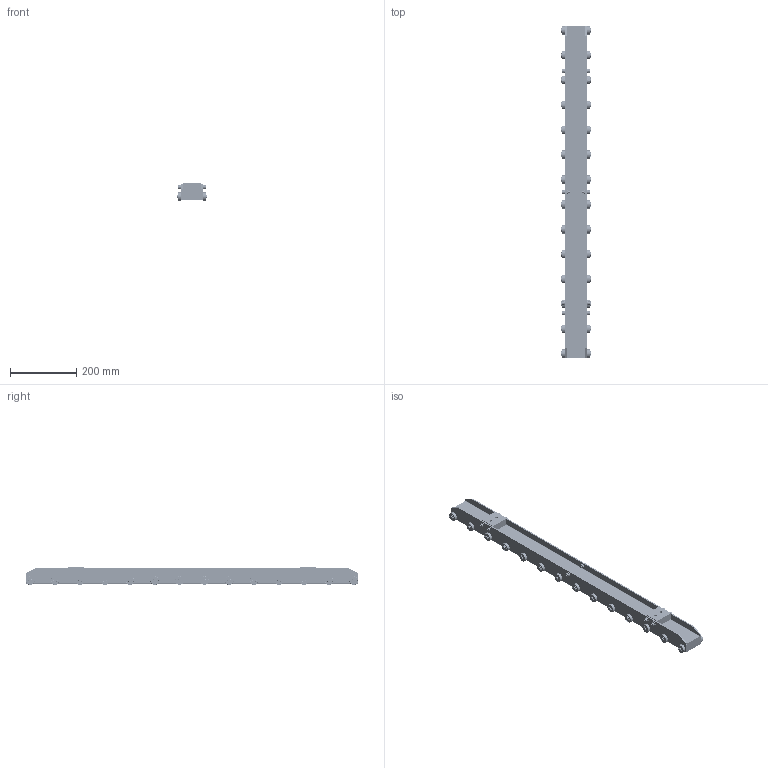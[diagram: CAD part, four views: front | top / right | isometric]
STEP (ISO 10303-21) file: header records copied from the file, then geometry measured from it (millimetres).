
FILE_DESCRIPTION(/* description */ (''),/* implementation_level */ '2;1');
FILE_NAME(/* name */ 'C:/Users/hiroshi_y/Documents/Fusion 360/SPR-RO-065Wx050Hx1000L_CAD.step',/* time_stamp */ '2022-11-15T12:56:07+09:00',/* author */ (''),/* organization */ (''),/* preprocessor_version */ 'ST-DEVELOPER v19',/* originating_system */ 'Autodesk Translation Framework v11.7.0.108',/* authorisation */ '');
FILE_SCHEMA (('AUTOMOTIVE_DESIGN { 1 0 10303 214 3 1 1 }'));
Length unit declared in the file: millimetre
Products named in the file (62): SPR-RO-065Wx050Hx1000L_CAD; BODY1; UNUTKZ6; CAP_BOLT_M6(L=16) v1(ミラー) (1); UNUTKZ6 v2(ミラー); BODY2; Bracket; Shaft; 6000ZZ; 6000ZZ v1(ミラー); Shaft_1; 6000ZZ_1; 6000ZZ v1(ミラー)_1; Shaft_2; 6000ZZ_2; 6000ZZ v1(ミラー)_2; Shaft_3; 6000ZZ_3; 6000ZZ v1(ミラー)_3; Shaft_4; 6000ZZ_4; 6000ZZ v1(ミラー)_4; Shaft_5; 6000ZZ_5; 6000ZZ v1(ミラー)_5; Shaft_6; 6000ZZ_6; 6000ZZ v1(ミラー)_6; Shaft_7; 6000ZZ_7; 6000ZZ v1(ミラー)_7; Shaft_8; 6000ZZ_8; 6000ZZ v1(ミラー)_8; Shaft_9; 6000ZZ_9; 6000ZZ v1(ミラー)_9; Shaft_10; 6000ZZ_10; 6000ZZ v1(ミラー)_10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
Assembly tree (394 placements, depth 4):
  SPR-RO-065Wx050Hx1000L_CAD
    BODY1
      CAP_BOLT_M6(L=16)
      UNUTKZ6
      CAP_BOLT_M6(L=16) v1(ミラー) (1)
      UNUTKZ6 v2(ミラー)
    BODY2
    Bracket
      CAP_BOLT_M6(L=16)  x2
      CAP_BOLT_M6(L=16) v1(ミラー)  x2
    Shaft
      6000ZZ
        6000ZZ_shield  x2
        6000ZZ_or
        6000ZZ_ball  x7
        6000ZZ_cage
        6000ZZ_ir
      6000ZZ v1(ミラー)
        6000ZZ_shield(ミラー)  x2
        6000ZZ_or(ミラー)
        6000ZZ_ball(ミラー)  x7
        6000ZZ_cage(ミラー)
        6000ZZ_ir(ミラー)
    Shaft_1
      6000ZZ_1
        6000ZZ_shield  x2
        6000ZZ_or
        6000ZZ_ball  x7
        6000ZZ_cage
        6000ZZ_ir
      6000ZZ v1(ミラー)_1
        6000ZZ_shield(ミラー)  x2
        6000ZZ_or(ミラー)
        6000ZZ_ball(ミラー)  x7
        6000ZZ_cage(ミラー)
        6000ZZ_ir(ミラー)
    Shaft_2
      6000ZZ_2
        6000ZZ_shield  x2
        6000ZZ_or
        6000ZZ_ball  x7
        6000ZZ_cage
        6000ZZ_ir
      6000ZZ v1(ミラー)_2
        6000ZZ_shield(ミラー)  x2
        6000ZZ_or(ミラー)
        6000ZZ_ball(ミラー)  x7
        6000ZZ_cage(ミラー)
        6000ZZ_ir(ミラー)
    Shaft_3
      6000ZZ_3
        6000ZZ_shield  x2
        6000ZZ_or
        6000ZZ_ball  x7
        6000ZZ_cage
        6000ZZ_ir
      6000ZZ v1(ミラー)_3
        6000ZZ_shield(ミラー)  x2
        6000ZZ_or(ミラー)
        6000ZZ_ball(ミラー)  x7
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Bounding box: 92 x 1001 x 54 mm (x, y, z)
Volume: 818563.4 mm3; surface area: 755899.2 mm2
Topology: 460 solids, 460 shells, 2630 faces, 6364 edges, 4114 vertices
Faces by surface type: cylinder 870, plane 802, sphere 392, cone 284, torus 282
Full cylindrical faces by diameter (mm): 2 x28, 4.917 x2, 5.035 x4, 5.5 x20, 6 x10, 6.5 x10, 8 x2, 8.526 x4, 10 x82, 10.2 x56, 13.75 x112, 14 x10, 14.703 x56, 16 x56, 16.809 x28, 19.191 x28, 20.704 x56, 22.8 x112, 26 x28
Entity records: 40297 total; most frequent: CARTESIAN_POINT 11133, DIRECTION 6016, ORIENTED_EDGE 5116, EDGE_CURVE 2558, AXIS2_PLACEMENT_3D 2453, VERTEX_POINT 1680, EDGE_LOOP 1396, LINE 1110
